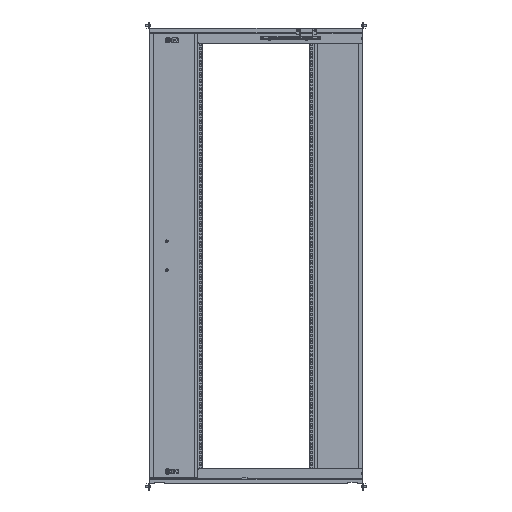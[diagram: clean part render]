
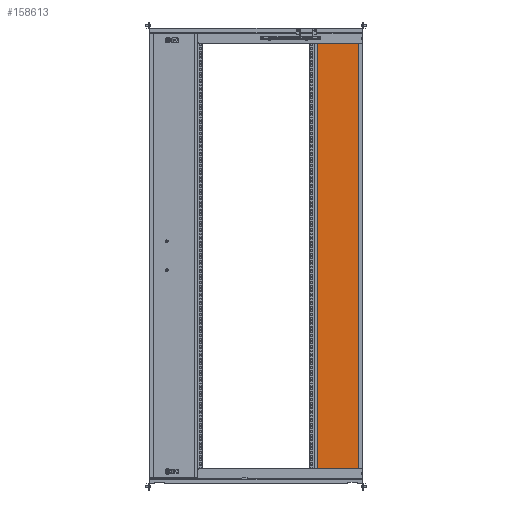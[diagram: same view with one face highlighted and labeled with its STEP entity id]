
A CAD part, top view. The second image highlights one B-rep face of the part: STEP entity #158613.
In plain terms, the highlighted planar face has unit normal (0, 0, 1).
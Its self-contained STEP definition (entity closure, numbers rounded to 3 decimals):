
#158196 = VERTEX_POINT('',#158197);
#158197 = CARTESIAN_POINT('',(-98.5,-886.9,0.));
#158203 = EDGE_CURVE('',#158204,#158196,#158206,.T.);
#158204 = VERTEX_POINT('',#158205);
#158205 = CARTESIAN_POINT('',(-98.5,886.9,0.));
#158206 = LINE('',#158207,#158208);
#158207 = CARTESIAN_POINT('',(-98.5,-0.,0.));
#158208 = VECTOR('',#158209,1.);
#158209 = DIRECTION('',(0.,-1.,-0.));
#158384 = VERTEX_POINT('',#158385);
#158385 = CARTESIAN_POINT('',(98.5,886.9,0.));
#158391 = EDGE_CURVE('',#158392,#158384,#158394,.T.);
#158392 = VERTEX_POINT('',#158393);
#158393 = CARTESIAN_POINT('',(98.5,-886.9,0.));
#158394 = LINE('',#158395,#158396);
#158395 = CARTESIAN_POINT('',(98.5,0.,
    0.));
#158396 = VECTOR('',#158397,1.);
#158397 = DIRECTION('',(0.,1.,0.));
#158493 = EDGE_CURVE('',#158494,#158496,#158498,.T.);
#158494 = VERTEX_POINT('',#158495);
#158495 = CARTESIAN_POINT('',(97.9,-886.9,0.));
#158496 = VERTEX_POINT('',#158497);
#158497 = CARTESIAN_POINT('',(97.9,-887.5,0.));
#158498 = LINE('',#158499,#158500);
#158499 = CARTESIAN_POINT('',(97.9,0.,0.));
#158500 = VECTOR('',#158501,1.);
#158501 = DIRECTION('',(0.,-1.,-0.));
#158613 = ADVANCED_FACE('',(#158614),#158685,.T.);
#158614 = FACE_BOUND('',#158615,.T.);
#158615 = EDGE_LOOP('',(#158616,#158624,#158632,#158638,#158639,#158645,
    #158646,#158654,#158662,#158670,#158678,#158684));
#158616 = ORIENTED_EDGE('',*,*,#158617,.F.);
#158617 = EDGE_CURVE('',#158618,#158196,#158620,.T.);
#158618 = VERTEX_POINT('',#158619);
#158619 = CARTESIAN_POINT('',(-97.9,-886.9,0.));
#158620 = LINE('',#158621,#158622);
#158621 = CARTESIAN_POINT('',(0.,-886.9,0.));
#158622 = VECTOR('',#158623,1.);
#158623 = DIRECTION('',(-1.,0.,0.));
#158624 = ORIENTED_EDGE('',*,*,#158625,.T.);
#158625 = EDGE_CURVE('',#158618,#158626,#158628,.T.);
#158626 = VERTEX_POINT('',#158627);
#158627 = CARTESIAN_POINT('',(-97.9,-887.5,0.));
#158628 = LINE('',#158629,#158630);
#158629 = CARTESIAN_POINT('',(-97.9,-886.9,0.));
#158630 = VECTOR('',#158631,1.);
#158631 = DIRECTION('',(-0.,-1.,-0.));
#158632 = ORIENTED_EDGE('',*,*,#158633,.F.);
#158633 = EDGE_CURVE('',#158496,#158626,#158634,.T.);
#158634 = LINE('',#158635,#158636);
#158635 = CARTESIAN_POINT('',(0.,-887.5,0.));
#158636 = VECTOR('',#158637,1.);
#158637 = DIRECTION('',(-1.,0.,-0.));
#158638 = ORIENTED_EDGE('',*,*,#158493,.F.);
#158639 = ORIENTED_EDGE('',*,*,#158640,.T.);
#158640 = EDGE_CURVE('',#158494,#158392,#158641,.T.);
#158641 = LINE('',#158642,#158643);
#158642 = CARTESIAN_POINT('',(97.9,-886.9,0.));
#158643 = VECTOR('',#158644,1.);
#158644 = DIRECTION('',(1.,-0.,-0.));
#158645 = ORIENTED_EDGE('',*,*,#158391,.T.);
#158646 = ORIENTED_EDGE('',*,*,#158647,.F.);
#158647 = EDGE_CURVE('',#158648,#158384,#158650,.T.);
#158648 = VERTEX_POINT('',#158649);
#158649 = CARTESIAN_POINT('',(97.9,886.9,0.));
#158650 = LINE('',#158651,#158652);
#158651 = CARTESIAN_POINT('',(0.,886.9,0.));
#158652 = VECTOR('',#158653,1.);
#158653 = DIRECTION('',(1.,0.,0.));
#158654 = ORIENTED_EDGE('',*,*,#158655,.T.);
#158655 = EDGE_CURVE('',#158648,#158656,#158658,.T.);
#158656 = VERTEX_POINT('',#158657);
#158657 = CARTESIAN_POINT('',(97.9,887.5,0.));
#158658 = LINE('',#158659,#158660);
#158659 = CARTESIAN_POINT('',(97.9,886.9,0.));
#158660 = VECTOR('',#158661,1.);
#158661 = DIRECTION('',(-0.,1.,0.));
#158662 = ORIENTED_EDGE('',*,*,#158663,.T.);
#158663 = EDGE_CURVE('',#158656,#158664,#158666,.T.);
#158664 = VERTEX_POINT('',#158665);
#158665 = CARTESIAN_POINT('',(-97.9,887.5,0.));
#158666 = LINE('',#158667,#158668);
#158667 = CARTESIAN_POINT('',(0.,887.5,0.));
#158668 = VECTOR('',#158669,1.);
#158669 = DIRECTION('',(-1.,0.,0.));
#158670 = ORIENTED_EDGE('',*,*,#158671,.F.);
#158671 = EDGE_CURVE('',#158672,#158664,#158674,.T.);
#158672 = VERTEX_POINT('',#158673);
#158673 = CARTESIAN_POINT('',(-97.9,886.9,0.));
#158674 = LINE('',#158675,#158676);
#158675 = CARTESIAN_POINT('',(-97.9,0.,0.));
#158676 = VECTOR('',#158677,1.);
#158677 = DIRECTION('',(-0.,1.,-0.));
#158678 = ORIENTED_EDGE('',*,*,#158679,.T.);
#158679 = EDGE_CURVE('',#158672,#158204,#158680,.T.);
#158680 = LINE('',#158681,#158682);
#158681 = CARTESIAN_POINT('',(-97.9,886.9,0.));
#158682 = VECTOR('',#158683,1.);
#158683 = DIRECTION('',(-1.,-0.,-0.));
#158684 = ORIENTED_EDGE('',*,*,#158203,.T.);
#158685 = PLANE('',#158686);
#158686 = AXIS2_PLACEMENT_3D('',#158687,#158688,#158689);
#158687 = CARTESIAN_POINT('',(0.,0.,0.));
#158688 = DIRECTION('',(0.,-0.,1.));
#158689 = DIRECTION('',(1.,0.,0.));
